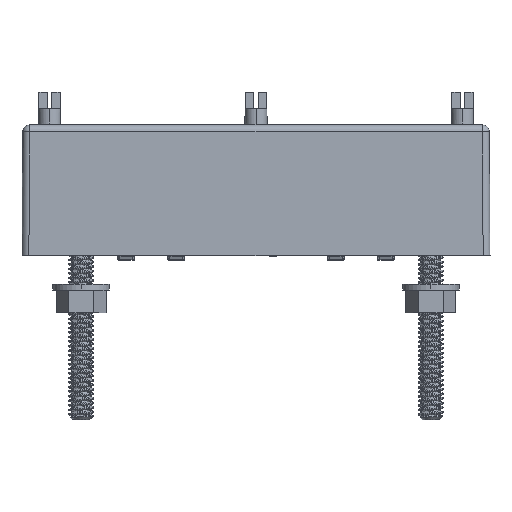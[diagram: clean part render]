
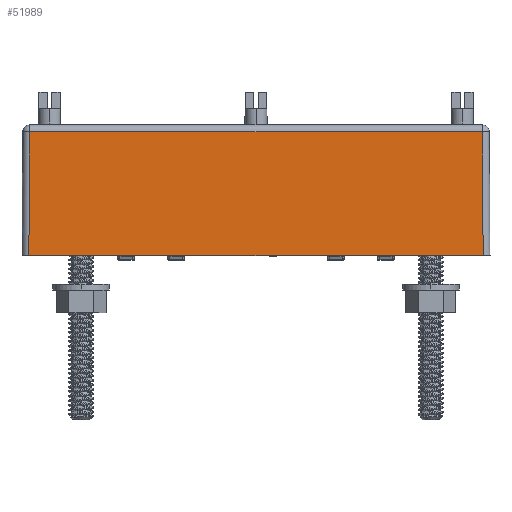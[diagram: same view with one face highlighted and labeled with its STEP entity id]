
A CAD part, top view. The second image highlights one B-rep face of the part: STEP entity #51989.
In plain terms, the highlighted planar face has unit normal (0, 0.006, 1).
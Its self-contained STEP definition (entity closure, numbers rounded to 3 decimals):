
#1228 = DIRECTION ( 'NONE',  ( 0., 0.006, 1. ) ) ;
#1448 = VECTOR ( 'NONE', #38536, 1000. ) ;
#2225 = AXIS2_PLACEMENT_3D ( 'NONE', #48901, #1228, #37165 ) ;
#9659 = EDGE_CURVE ( 'NONE', #33917, #51115, #43526, .T. ) ;
#10449 = ORIENTED_EDGE ( 'NONE', *, *, #32336, .T. ) ;
#10800 = ORIENTED_EDGE ( 'NONE', *, *, #9659, .T. ) ;
#14526 = CARTESIAN_POINT ( 'NONE',  ( -33., -9.5, 9.5 ) ) ;
#15805 = DIRECTION ( 'NONE',  ( -1., 0., 0. ) ) ;
#15811 = VECTOR ( 'NONE', #17196, 1000. ) ;
#17196 = DIRECTION ( 'NONE',  ( 1., 0., 0. ) ) ;
#19001 = VERTEX_POINT ( 'NONE', #14526 ) ;
#21666 = VECTOR ( 'NONE', #15805, 1000. ) ;
#24062 = CARTESIAN_POINT ( 'NONE',  ( -32.899, 8.506, 9.399 ) ) ;
#25452 = ORIENTED_EDGE ( 'NONE', *, *, #50569, .T. ) ;
#27041 = DIRECTION ( 'NONE',  ( -0.006, 1., -0.006 ) ) ;
#28645 = PLANE ( 'NONE',  #2225 ) ;
#29167 = CARTESIAN_POINT ( 'NONE',  ( -34., -9.5, 9.5 ) ) ;
#30912 = CARTESIAN_POINT ( 'NONE',  ( 33., -9.5, 9.5 ) ) ;
#31793 = CARTESIAN_POINT ( 'NONE',  ( -34., 8.506, 9.399 ) ) ;
#32336 = EDGE_CURVE ( 'NONE', #51115, #19001, #42549, .T. ) ;
#33917 = VERTEX_POINT ( 'NONE', #47026 ) ;
#35549 = LINE ( 'NONE', #48790, #43007 ) ;
#37165 = DIRECTION ( 'NONE',  ( 0., -1., 0.006 ) ) ;
#37681 = FACE_OUTER_BOUND ( 'NONE', #45791, .T. ) ;
#38536 = DIRECTION ( 'NONE',  ( -0.006, -1., 0.006 ) ) ;
#42278 = CARTESIAN_POINT ( 'NONE',  ( -33., -9.506, 9.5 ) ) ;
#42549 = LINE ( 'NONE', #42278, #1448 ) ;
#43007 = VECTOR ( 'NONE', #27041, 1000. ) ;
#43526 = LINE ( 'NONE', #31793, #21666 ) ;
#44111 = EDGE_CURVE ( 'NONE', #44417, #33917, #35549, .T. ) ;
#44417 = VERTEX_POINT ( 'NONE', #30912 ) ;
#45791 = EDGE_LOOP ( 'NONE', ( #51608, #10800, #10449, #25452 ) ) ;
#47026 = CARTESIAN_POINT ( 'NONE',  ( 32.899, 8.506, 9.399 ) ) ;
#48790 = CARTESIAN_POINT ( 'NONE',  ( 32.998, -9.126, 9.498 ) ) ;
#48894 = LINE ( 'NONE', #29167, #15811 ) ;
#48901 = CARTESIAN_POINT ( 'NONE',  ( -34., -9.5, 9.5 ) ) ;
#50569 = EDGE_CURVE ( 'NONE', #19001, #44417, #48894, .T. ) ;
#51115 = VERTEX_POINT ( 'NONE', #24062 ) ;
#51608 = ORIENTED_EDGE ( 'NONE', *, *, #44111, .T. ) ;
#51989 = ADVANCED_FACE ( 'NONE', ( #37681 ), #28645, .T. ) ;
